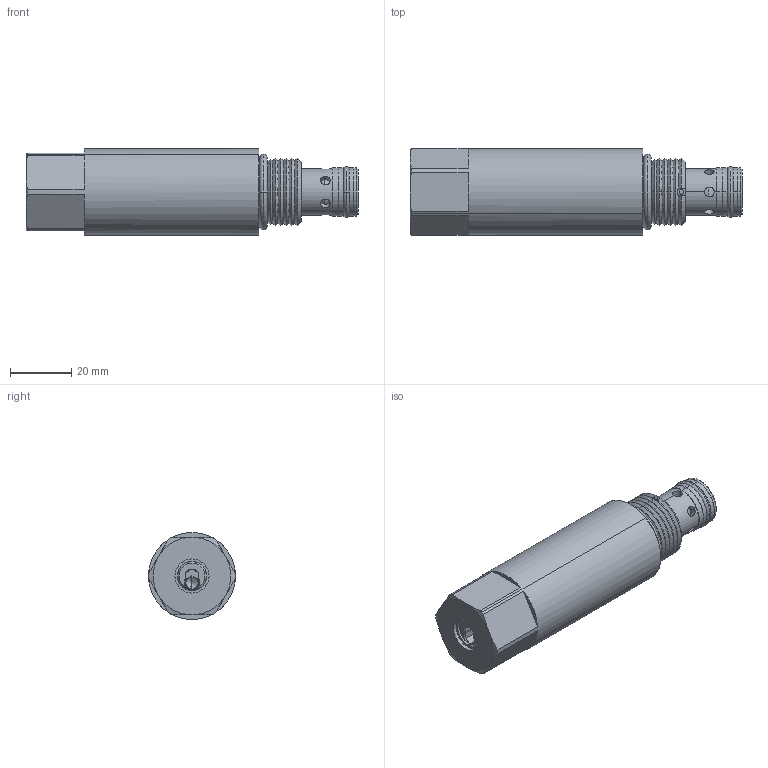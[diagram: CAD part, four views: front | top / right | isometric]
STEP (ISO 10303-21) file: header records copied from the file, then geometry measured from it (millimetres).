
FILE_DESCRIPTION((''),'2;1');
FILE_NAME('U:\Solid model CD\Solid model full\Mechanical\STEP\DERVC0I-3D Full.stp','2008-07-28T16:19:13',('Dan'),(''),'Autodesk Inventor 9','Autodesk Inventor 9','');
FILE_SCHEMA(('AUTOMOTIVE_DESIGN { 1 0 10303 214 1 1 1 1 }'));
Length unit declared in the file: inch
Products named in the file (6): DERVC0I-3D Full; DERVC0I-3D Full1; DERVC0I-3D Full2; DERVC0I-3D Full3; DERVC0I-3D Full4; DERVC0I-3D Full5
Assembly tree (5 placements, depth 2):
  DERVC0I-3D Full
    DERVC0I-3D Full1
    DERVC0I-3D Full2
    DERVC0I-3D Full3
    DERVC0I-3D Full4
    DERVC0I-3D Full5
Bounding box: 108.71 x 28.45 x 28.45 mm (x, y, z)
Volume: 54690.5 mm3; surface area: 12578 mm2
Topology: 5 solids, 5 shells, 160 faces, 394 edges, 244 vertices
Faces by surface type: cylinder 55, cone 50, plane 47, torus 8
Entity records: 5311 total; most frequent: CARTESIAN_POINT 1395, DIRECTION 815, ORIENTED_EDGE 784, EDGE_CURVE 392, AXIS2_PLACEMENT_3D 335, VERTEX_POINT 244, EDGE_LOOP 186, CIRCLE 164
